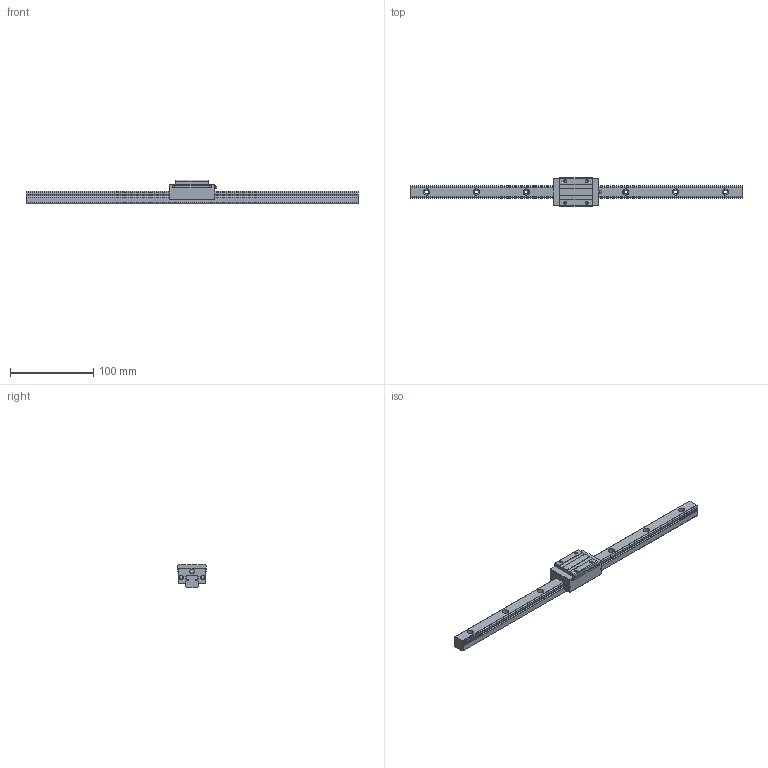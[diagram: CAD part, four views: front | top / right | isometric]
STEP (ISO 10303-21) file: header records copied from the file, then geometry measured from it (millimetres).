
FILE_DESCRIPTION((''),'2;1');
FILE_NAME('D:\製品 (図面)\カタログ用3D\リニアガイド関連\STEP形式\LGHR\LGHR15.stp','2010-06-02T15:51:49',('Tsuchiya'),(''),'Autodesk Inventor 10','Autodesk Inventor 10','');
FILE_SCHEMA(('AUTOMOTIVE_DESIGN { 1 0 10303 214 1 1 1 1 }'));
Length unit declared in the file: millimetre
Products named in the file (3): LGHR15; LGHR151; LGHR152
Assembly tree (2 placements, depth 2):
  LGHR15
    LGHR151
    LGHR152
Bounding box: 400 x 34 x 28 mm (x, y, z)
Volume: 113487.2 mm3; surface area: 37702.8 mm2
Topology: 2 solids, 2 shells, 209 faces, 543 edges, 361 vertices
Faces by surface type: plane 93, bspline 59, cylinder 53, sphere 2, cone 2
Full cylindrical faces by diameter (mm): 2.9 x2, 3.242 x2, 3.5 x1, 4.5 x3, 5.6 x1
Entity records: 6663 total; most frequent: CARTESIAN_POINT 1653, ORIENTED_EDGE 1002, DIRECTION 974, EDGE_CURVE 501, VERTEX_POINT 355, VECTOR 338, LINE 338, AXIS2_PLACEMENT_3D 318
